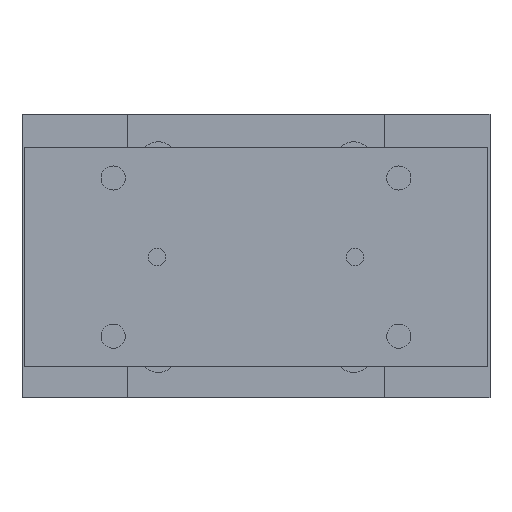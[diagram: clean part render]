
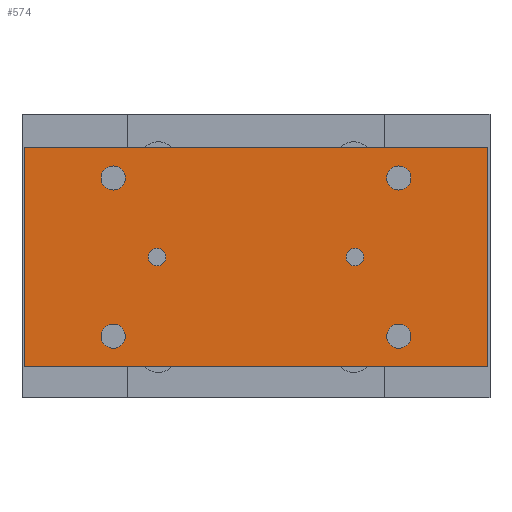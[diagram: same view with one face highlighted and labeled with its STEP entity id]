
A CAD part, left-side view. The second image highlights one B-rep face of the part: STEP entity #574.
In plain terms, the highlighted planar face has unit normal (-1, 0, 0).
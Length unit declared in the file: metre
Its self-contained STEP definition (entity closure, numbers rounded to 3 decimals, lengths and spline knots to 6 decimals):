
#574 = ADVANCED_FACE( '', ( #1302, #1303, #1304, #1305, #1306, #1307, #1308 ), #1309, .T. );
#1302 = FACE_BOUND( '', #2100, .T. );
#1303 = FACE_BOUND( '', #2101, .T. );
#1304 = FACE_BOUND( '', #2102, .T. );
#1305 = FACE_BOUND( '', #2103, .T. );
#1306 = FACE_BOUND( '', #2104, .T. );
#1307 = FACE_BOUND( '', #2105, .T. );
#1308 = FACE_OUTER_BOUND( '', #2106, .T. );
#1309 = PLANE( '', #2107 );
#2100 = EDGE_LOOP( '', ( #3464 ) );
#2101 = EDGE_LOOP( '', ( #3465 ) );
#2102 = EDGE_LOOP( '', ( #3466 ) );
#2103 = EDGE_LOOP( '', ( #3467 ) );
#2104 = EDGE_LOOP( '', ( #3468 ) );
#2105 = EDGE_LOOP( '', ( #3469 ) );
#2106 = EDGE_LOOP( '', ( #3470, #3471, #3472, #3473 ) );
#2107 = AXIS2_PLACEMENT_3D( '', #3474, #3475, #3476 );
#3464 = ORIENTED_EDGE( '', *, *, #4000, .F. );
#3465 = ORIENTED_EDGE( '', *, *, #4035, .F. );
#3466 = ORIENTED_EDGE( '', *, *, #4082, .F. );
#3467 = ORIENTED_EDGE( '', *, *, #4266, .F. );
#3468 = ORIENTED_EDGE( '', *, *, #3832, .F. );
#3469 = ORIENTED_EDGE( '', *, *, #3841, .T. );
#3470 = ORIENTED_EDGE( '', *, *, #4267, .T. );
#3471 = ORIENTED_EDGE( '', *, *, #4007, .T. );
#3472 = ORIENTED_EDGE( '', *, *, #4072, .T. );
#3473 = ORIENTED_EDGE( '', *, *, #3816, .T. );
#3474 = CARTESIAN_POINT( '', ( -0.1445, -0.1055, -0.015 ) );
#3475 = DIRECTION( '', ( -1., 0., 0. ) );
#3476 = DIRECTION( '', ( 0., -1., 0. ) );
#3816 = EDGE_CURVE( '', #4402, #4400, #4403, .T. );
#3832 = EDGE_CURVE( '', #4429, #4429, #4430, .T. );
#3841 = EDGE_CURVE( '', #4443, #4443, #4444, .T. );
#4000 = EDGE_CURVE( '', #4698, #4698, #4699, .T. );
#4007 = EDGE_CURVE( '', #4711, #4709, #4712, .T. );
#4035 = EDGE_CURVE( '', #4753, #4753, #4754, .T. );
#4072 = EDGE_CURVE( '', #4709, #4402, #4807, .T. );
#4082 = EDGE_CURVE( '', #4822, #4822, #4823, .T. );
#4266 = EDGE_CURVE( '', #5074, #5074, #5075, .T. );
#4267 = EDGE_CURVE( '', #4400, #4711, #5076, .T. );
#4400 = VERTEX_POINT( '', #5235 );
#4402 = VERTEX_POINT( '', #5238 );
#4403 = LINE( '', #5239, #5240 );
#4429 = VERTEX_POINT( '', #5275 );
#4430 = CIRCLE( '', #5276, 0.004 );
#4443 = VERTEX_POINT( '', #5292 );
#4444 = CIRCLE( '', #5293, 0.004 );
#4698 = VERTEX_POINT( '', #5715 );
#4699 = CIRCLE( '', #5716, 0.0055 );
#4709 = VERTEX_POINT( '', #5760 );
#4711 = VERTEX_POINT( '', #5763 );
#4712 = LINE( '', #5764, #5765 );
#4753 = VERTEX_POINT( '', #5815 );
#4754 = CIRCLE( '', #5816, 0.0055 );
#4807 = LINE( '', #5917, #5918 );
#4822 = VERTEX_POINT( '', #5933 );
#4823 = CIRCLE( '', #5934, 0.0055 );
#5074 = VERTEX_POINT( '', #6314 );
#5075 = CIRCLE( '', #6315, 0.0055 );
#5076 = LINE( '', #6316, #6317 );
#5235 = CARTESIAN_POINT( '', ( -0.1445, -0.1055, -0.115 ) );
#5238 = CARTESIAN_POINT( '', ( -0.1445, 0.1055, -0.115 ) );
#5239 = CARTESIAN_POINT( '', ( -0.1445, 0.1055, -0.115 ) );
#5240 = VECTOR( '', #6484, 1. );
#5275 = CARTESIAN_POINT( '', ( -0.1445, -0.045, -0.069 ) );
#5276 = AXIS2_PLACEMENT_3D( '', #6500, #6501, #6502 );
#5292 = CARTESIAN_POINT( '', ( -0.1445, 0.045, -0.069 ) );
#5293 = AXIS2_PLACEMENT_3D( '', #6512, #6513, #6514 );
#5715 = CARTESIAN_POINT( '', ( -0.1445, -0.0705, -0.101 ) );
#5716 = AXIS2_PLACEMENT_3D( '', #6701, #6702, #6703 );
#5760 = CARTESIAN_POINT( '', ( -0.1445, 0.1055, -0.015 ) );
#5763 = CARTESIAN_POINT( '', ( -0.1445, -0.1055, -0.015 ) );
#5764 = CARTESIAN_POINT( '', ( -0.1445, -0.1055, -0.015 ) );
#5765 = VECTOR( '', #6709, 1. );
#5815 = CARTESIAN_POINT( '', ( -0.1445, 0.0595, -0.101 ) );
#5816 = AXIS2_PLACEMENT_3D( '', #6743, #6744, #6745 );
#5917 = CARTESIAN_POINT( '', ( -0.1445, 0.1055, -0.015 ) );
#5918 = VECTOR( '', #6782, 1. );
#5933 = CARTESIAN_POINT( '', ( -0.1445, -0.0705, -0.029 ) );
#5934 = AXIS2_PLACEMENT_3D( '', #6798, #6799, #6800 );
#6314 = CARTESIAN_POINT( '', ( -0.1445, 0.0595, -0.029 ) );
#6315 = AXIS2_PLACEMENT_3D( '', #6981, #6982, #6983 );
#6316 = CARTESIAN_POINT( '', ( -0.1445, -0.1055, -0.115 ) );
#6317 = VECTOR( '', #6984, 1. );
#6484 = DIRECTION( '', ( 0., -1., 0. ) );
#6500 = CARTESIAN_POINT( '', ( -0.1445, -0.045, -0.065 ) );
#6501 = DIRECTION( '', ( -1., 0., 0. ) );
#6502 = DIRECTION( '', ( 0., 0., -1. ) );
#6512 = CARTESIAN_POINT( '', ( -0.1445, 0.045, -0.065 ) );
#6513 = DIRECTION( '', ( 1., 0., 0. ) );
#6514 = DIRECTION( '', ( 0., 0., -1. ) );
#6701 = CARTESIAN_POINT( '', ( -0.1445, -0.065, -0.101 ) );
#6702 = DIRECTION( '', ( -1., 0., 0. ) );
#6703 = DIRECTION( '', ( 0., -1., 0. ) );
#6709 = DIRECTION( '', ( 0., 1., 0. ) );
#6743 = CARTESIAN_POINT( '', ( -0.1445, 0.065, -0.101 ) );
#6744 = DIRECTION( '', ( -1., 0., 0. ) );
#6745 = DIRECTION( '', ( 0., -1., 0. ) );
#6782 = DIRECTION( '', ( 0., 0., -1. ) );
#6798 = CARTESIAN_POINT( '', ( -0.1445, -0.065, -0.029 ) );
#6799 = DIRECTION( '', ( -1., 0., 0. ) );
#6800 = DIRECTION( '', ( 0., -1., 0. ) );
#6981 = CARTESIAN_POINT( '', ( -0.1445, 0.065, -0.029 ) );
#6982 = DIRECTION( '', ( -1., 0., 0. ) );
#6983 = DIRECTION( '', ( 0., -1., 0. ) );
#6984 = DIRECTION( '', ( 0., 0., 1. ) );
